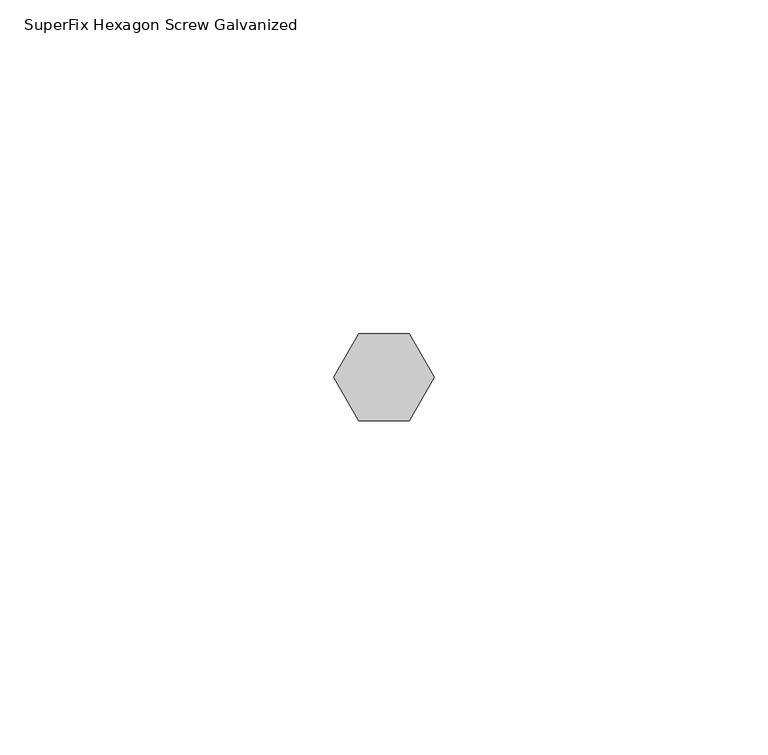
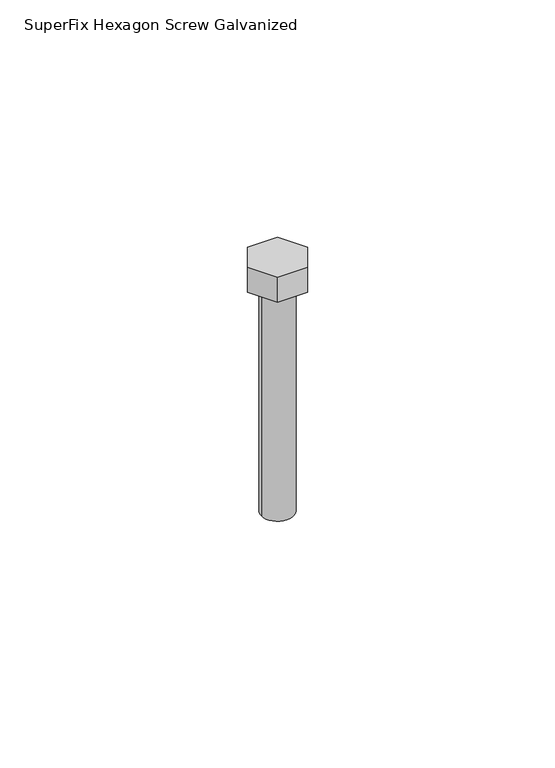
"""IFC4 building model written with IfcOpenShell, lengths in millimetres: valve geometry, SuperFix Hexagon Screw Galvanized : Hexagon Screw Galvanized M8 × 60."""

from ifc_helpers import new_model, si_unit, frame, origin, origin_with_axes, place, context, project, spatial, circle_curve, source, transform, mapped, element, save
from ifc_brep_helpers import plane_surface, cylinder_surface, advanced_brep


def superfix_hexagon_screw_galvanized_f0d66714(model_context):
    return source(origin(), model_context, "Body", "AdvancedBrep", [
        advanced_brep(
        [(-7.5055535, 0.0, 6.5), (-3.7527767, -6.5, 6.5), (3.7527767, -6.5, 6.5), (7.5055535, 0.0, 6.5), (3.7527767, 6.5, 6.5), (-3.7527767, 6.5, 6.5), (-7.5055535, 0.0, 0.0), (-3.7527767, 6.5, 0.0), (3.7527767, 6.5, 0.0), (7.5055535, 0.0, 0.0), (3.7527767, -6.5, 0.0), (-3.7527767, -6.5, 0.0), (-4.0, 0.0, 0.0), (4.0, 0.0, 0.0), (-4.0, 0.0, -60.0), (4.0, 0.0, -60.0)],
        [
            (0, 1),
            (1, 2),
            (2, 3),
            (3, 4),
            (4, 5),
            (5, 0),
            (6, 7),
            (7, 8),
            (8, 9),
            (9, 10),
            (10, 11),
            (11, 6),
            (12, 13, circle_curve(origin_with_axes(), 4.0)),
            (13, 12, circle_curve(origin_with_axes(), 4.0)),
            (5, 7),
            (6, 0),
            (4, 8),
            (3, 9),
            (2, 10),
            (1, 11),
            (14, 15, circle_curve(frame((0.0, 0.0, -60.0), z_axis=(0.0, 0.0, -1.0), x_axis=(1.0, 0.0, 0.0)), 4.0)),
            (15, 14, circle_curve(frame((0.0, 0.0, -60.0), z_axis=(0.0, 0.0, -1.0), x_axis=(1.0, 0.0, 0.0)), 4.0)),
            (14, 12),
            (13, 15),
        ],
        [
            plane_surface(frame((-7.5055535, 0.0, 6.5), z_axis=(0.0, 0.0, 1.0), x_axis=(0.49999999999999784, 0.8660254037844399, 0.0))),
            plane_surface(frame((-7.5055535, 0.0, 0.0), z_axis=(0.0, 0.0, -1.0), x_axis=(-0.49999999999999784, -0.8660254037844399, 0.0))),
            plane_surface(frame((-7.5055535, 0.0, 6.5), z_axis=(-0.8660254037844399, 0.49999999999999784, 0.0), x_axis=(0.0, 0.0, -1.0))),
            plane_surface(frame((-3.7527767, 6.5, 6.5), z_axis=(0.0, 1.0, 0.0), x_axis=(0.0, 0.0, -1.0))),
            plane_surface(frame((3.7527767, 6.5, 6.5), z_axis=(0.8660254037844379, 0.5000000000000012, 0.0), x_axis=(0.0, 0.0, -1.0))),
            plane_surface(frame((7.5055535, 0.0, 6.5), z_axis=(0.8660254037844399, -0.4999999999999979, 0.0), x_axis=(0.0, 0.0, -1.0))),
            plane_surface(frame((3.7527767, -6.5, 6.5), z_axis=(0.0, -1.0, 0.0), x_axis=(0.0, 0.0, -1.0))),
            plane_surface(frame((-3.7527767, -6.5, 6.5), z_axis=(-0.866025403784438, -0.5000000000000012, 0.0), x_axis=(0.0, 0.0, -1.0))),
            plane_surface(frame((4.0, 0.0, -60.0), z_axis=(0.0, 0.0, -1.0), x_axis=(0.0, 1.0, 0.0))),
            cylinder_surface(frame((0.0, 0.0, -60.0), z_axis=(0.0, 0.0, 1.0), x_axis=(1.0, 0.0, 0.0)), 4.0),
        ],
        [
            (0, [[1, 2, 3, 4, 5, 6]]),
            (1, [[7, 8, 9, 10, 11, 12], [13, 14]]),
            (2, [[15, -7, 16, -6]]),
            (3, [[17, -8, -15, -5]]),
            (4, [[18, -9, -17, -4]]),
            (5, [[19, -10, -18, -3]]),
            (6, [[20, -11, -19, -2]]),
            (7, [[-16, -12, -20, -1]]),
            (8, [[21, 22]]),
            (9, [[23, -14, 24, -21]]),
            (9, [[-24, -13, -23, -22]]),
        ],
    ),
    ])


if __name__ == "__main__":
    model = new_model("IFC4")
    model_context = context("Model", 3, world=origin())
    ifc_project = project(units=[si_unit("LENGTHUNIT", "METRE", prefix="MILLI")], contexts=[model_context])
    site = spatial("IfcSite", under=ifc_project)
    building = spatial("IfcBuilding", under=site)
    placement = place(None, origin())
    superfix_hexagon_screw_galvanized_shape = superfix_hexagon_screw_galvanized_f0d66714(model_context)
    element("IfcValve", 1, ObjectType="SuperFix Hexagon Screw Galvanized : Hexagon Screw Galvanized M8 × 60", at=placement, inside=building, context=model_context, shape_type="MappedRepresentation", body=[
        mapped(superfix_hexagon_screw_galvanized_shape, transform((0.0, 0.0, 0.0), x_axis=(1.0, 0.0, 0.0), y_axis=(0.0, 1.0, 0.0), z_axis=(0.0, 0.0, 1.0))),
    ])
    save(model, "model.ifc")
